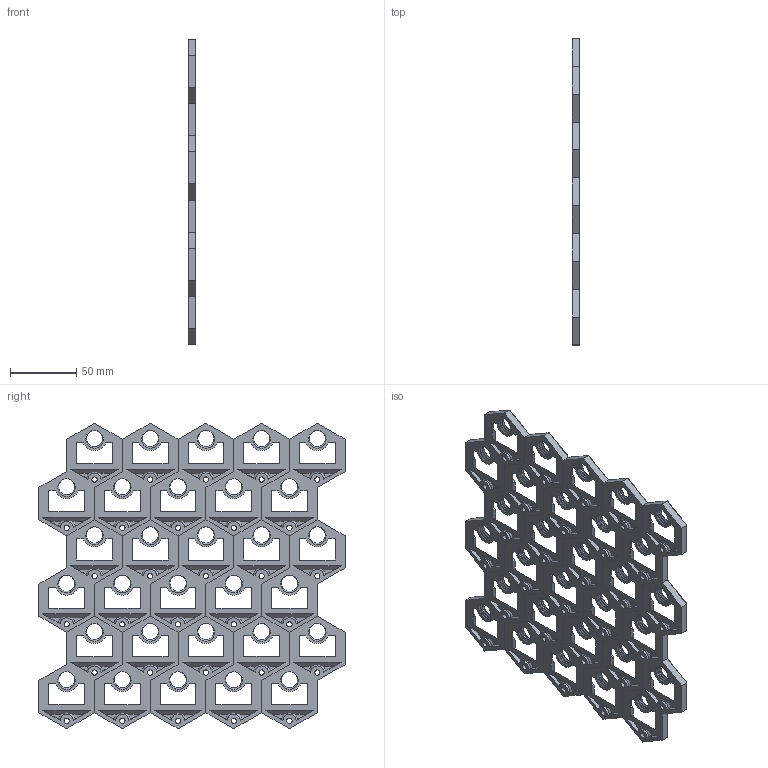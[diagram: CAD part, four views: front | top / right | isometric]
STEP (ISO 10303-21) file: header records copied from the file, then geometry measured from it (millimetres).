
FILE_DESCRIPTION(/* description */ ('','CAx-IF Rec.Pracs.---Representation and Presentation of Product Manufacturing Information (PMI)---4.0---2014-10-13'),/* implementation_level */ '2;1');
FILE_NAME(/* name */ 'GOEWS Tile 6x5.step',/* time_stamp */ '2024-11-28T09:47:25-05:00',/* author */ (''),/* organization */ (''),/* preprocessor_version */ 'ST-DEVELOPER v20',/* originating_system */ 'Autodesk Translation Framework v13.20.0.188',/* authorisation */ '');
FILE_SCHEMA (('AP242_MANAGED_MODEL_BASED_3D_ENGINEERING_MIM_LF { 1 0 10303 442 1 1 4 }'));
Products named in the file (1): GOEWS Tile Maker
Bounding box: 6 x 231 x 230.36 mm (x, y, z)
Volume: 137484.1 mm3; surface area: 116964 mm2
Topology: 15 solids, 15 shells, 1695 faces, 4545 edges, 2910 vertices
Faces by surface type: plane 1185, cylinder 360, cone 90, bspline 60
Full cylindrical faces by diameter (mm): 4 x30, 8 x30, 12.322 x60, 14.55 x60
Entity records: 87248 total; most frequent: CARTESIAN_POINT 46051, ORIENTED_EDGE 9090, DIRECTION 7517, EDGE_CURVE 4545, LINE 3285, VECTOR 3285, VERTEX_POINT 2910, AXIS2_PLACEMENT_3D 2116
